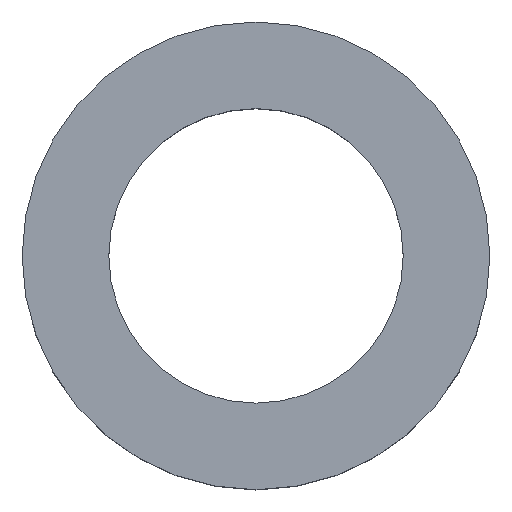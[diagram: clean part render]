
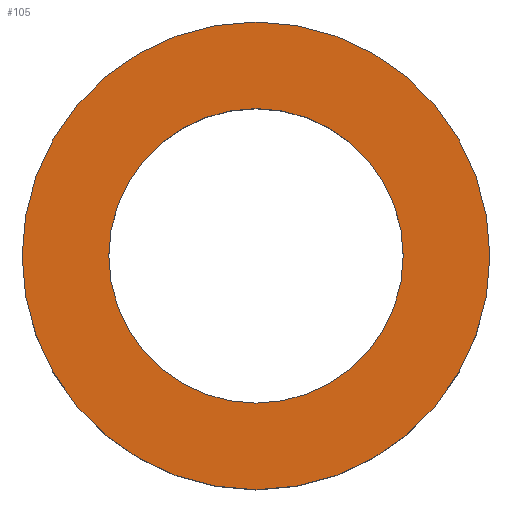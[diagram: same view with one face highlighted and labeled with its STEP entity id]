
A CAD part, top view. The second image highlights one B-rep face of the part: STEP entity #105.
In plain terms, the highlighted planar face has unit normal (0, 0, 1).
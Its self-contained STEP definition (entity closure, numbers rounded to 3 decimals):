
#21 = EDGE_CURVE('',#22,#22,#24,.T.);
#22 = VERTEX_POINT('',#23);
#23 = CARTESIAN_POINT('',(2.7,0.,1.7));
#24 = SURFACE_CURVE('',#25,(#30,#42),.PCURVE_S1.);
#25 = CIRCLE('',#26,2.7);
#26 = AXIS2_PLACEMENT_3D('',#27,#28,#29);
#27 = CARTESIAN_POINT('',(0.,0.,1.7));
#28 = DIRECTION('',(0.,0.,1.));
#29 = DIRECTION('',(1.,0.,-0.));
#30 = PCURVE('',#31,#36);
#31 = CYLINDRICAL_SURFACE('',#32,2.7);
#32 = AXIS2_PLACEMENT_3D('',#33,#34,#35);
#33 = CARTESIAN_POINT('',(0.,0.,0.));
#34 = DIRECTION('',(0.,0.,1.));
#35 = DIRECTION('',(1.,0.,-0.));
#36 = DEFINITIONAL_REPRESENTATION('',(#37),#41);
#37 = LINE('',#38,#39);
#38 = CARTESIAN_POINT('',(0.,1.7));
#39 = VECTOR('',#40,1.);
#40 = DIRECTION('',(1.,0.));
#41 = ( GEOMETRIC_REPRESENTATION_CONTEXT(2) 
PARAMETRIC_REPRESENTATION_CONTEXT() REPRESENTATION_CONTEXT('2D SPACE',''
  ) );
#42 = PCURVE('',#43,#48);
#43 = PLANE('',#44);
#44 = AXIS2_PLACEMENT_3D('',#45,#46,#47);
#45 = CARTESIAN_POINT('',(0.,0.,1.7));
#46 = DIRECTION('',(0.,0.,1.));
#47 = DIRECTION('',(1.,0.,-0.));
#48 = DEFINITIONAL_REPRESENTATION('',(#49),#53);
#49 = CIRCLE('',#50,2.7);
#50 = AXIS2_PLACEMENT_2D('',#51,#52);
#51 = CARTESIAN_POINT('',(0.,0.));
#52 = DIRECTION('',(1.,0.));
#53 = ( GEOMETRIC_REPRESENTATION_CONTEXT(2) 
PARAMETRIC_REPRESENTATION_CONTEXT() REPRESENTATION_CONTEXT('2D SPACE',''
  ) );
#105 = ADVANCED_FACE('',(#106,#109),#43,.T.);
#106 = FACE_BOUND('',#107,.T.);
#107 = EDGE_LOOP('',(#108));
#108 = ORIENTED_EDGE('',*,*,#21,.T.);
#109 = FACE_BOUND('',#110,.T.);
#110 = EDGE_LOOP('',(#111));
#111 = ORIENTED_EDGE('',*,*,#112,.F.);
#112 = EDGE_CURVE('',#113,#113,#115,.T.);
#113 = VERTEX_POINT('',#114);
#114 = CARTESIAN_POINT('',(1.7,0.,1.7));
#115 = SURFACE_CURVE('',#116,(#121,#128),.PCURVE_S1.);
#116 = CIRCLE('',#117,1.7);
#117 = AXIS2_PLACEMENT_3D('',#118,#119,#120);
#118 = CARTESIAN_POINT('',(0.,0.,1.7));
#119 = DIRECTION('',(0.,0.,1.));
#120 = DIRECTION('',(1.,0.,-0.));
#121 = PCURVE('',#43,#122);
#122 = DEFINITIONAL_REPRESENTATION('',(#123),#127);
#123 = CIRCLE('',#124,1.7);
#124 = AXIS2_PLACEMENT_2D('',#125,#126);
#125 = CARTESIAN_POINT('',(0.,0.));
#126 = DIRECTION('',(1.,0.));
#127 = ( GEOMETRIC_REPRESENTATION_CONTEXT(2) 
PARAMETRIC_REPRESENTATION_CONTEXT() REPRESENTATION_CONTEXT('2D SPACE',''
  ) );
#128 = PCURVE('',#129,#134);
#129 = CYLINDRICAL_SURFACE('',#130,1.7);
#130 = AXIS2_PLACEMENT_3D('',#131,#132,#133);
#131 = CARTESIAN_POINT('',(0.,0.,-1.));
#132 = DIRECTION('',(0.,0.,1.));
#133 = DIRECTION('',(1.,0.,-0.));
#134 = DEFINITIONAL_REPRESENTATION('',(#135),#139);
#135 = LINE('',#136,#137);
#136 = CARTESIAN_POINT('',(0.,2.7));
#137 = VECTOR('',#138,1.);
#138 = DIRECTION('',(1.,0.));
#139 = ( GEOMETRIC_REPRESENTATION_CONTEXT(2) 
PARAMETRIC_REPRESENTATION_CONTEXT() REPRESENTATION_CONTEXT('2D SPACE',''
  ) );
